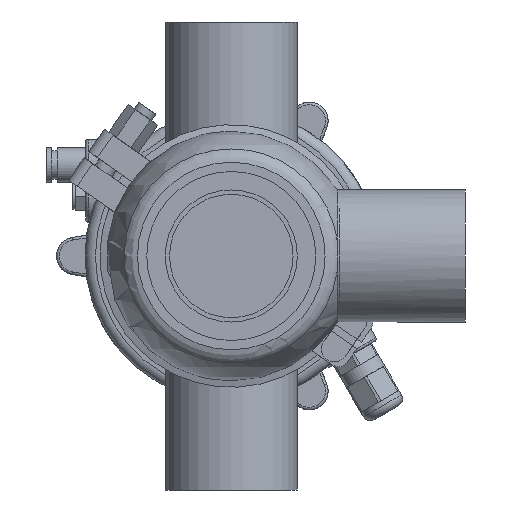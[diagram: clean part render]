
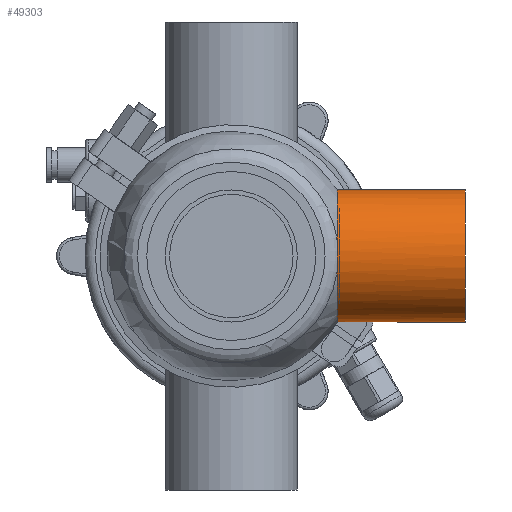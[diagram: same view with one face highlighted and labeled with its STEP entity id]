
A CAD part, front view. The second image highlights one B-rep face of the part: STEP entity #49303.
In plain terms, the highlighted cylindrical face has radius 25.4 mm (diameter 50.8 mm), a full revolution.
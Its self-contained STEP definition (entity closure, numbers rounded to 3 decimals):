
#6 = CARTESIAN_POINT ( 'NONE',  ( 90., 0., 25.4 ) ) ;
#2704 = VERTEX_POINT ( 'NONE', #41104 ) ;
#4981 = AXIS2_PLACEMENT_3D ( 'NONE', #21143, #5937, #24873 ) ;
#5277 = CARTESIAN_POINT ( 'NONE',  ( 40.729, -24.902, 5.113 ) ) ;
#5937 = DIRECTION ( 'NONE',  ( -1., 0., 0. ) ) ;
#6467 = DIRECTION ( 'NONE',  ( 1., 0., 0. ) ) ;
#7846 = DIRECTION ( 'NONE',  ( -1., 0., 0. ) ) ;
#9778 = EDGE_LOOP ( 'NONE', ( #10451, #44979 ) ) ;
#10451 = ORIENTED_EDGE ( 'NONE', *, *, #42884, .T. ) ;
#10853 = CARTESIAN_POINT ( 'NONE',  ( 40.729, -24.902, -5.113 ) ) ;
#10973 = CIRCLE ( 'NONE', #45681, 25.4 ) ;
#11286 = ORIENTED_EDGE ( 'NONE', *, *, #49764, .T. ) ;
#12159 = CARTESIAN_POINT ( 'NONE',  ( 90., 0., 0. ) ) ;
#14595 = CARTESIAN_POINT ( 'NONE',  ( 40.67, -25.4, 1.042 ) ) ;
#15179 = CARTESIAN_POINT ( 'NONE',  ( 40.682, -25.322, -2.053 ) ) ;
#15491 = CARTESIAN_POINT ( 'NONE',  ( 40.689, -25.275, -2.566 ) ) ;
#16145 = FACE_OUTER_BOUND ( 'NONE', #57023, .T. ) ;
#19874 = CARTESIAN_POINT ( 'NONE',  ( 40.672, -25.385, -1.022 ) ) ;
#20503 = CARTESIAN_POINT ( 'NONE',  ( 40.729, -24.652, -6.117 ) ) ;
#21143 = CARTESIAN_POINT ( 'NONE',  ( 0., 0., 0. ) ) ;
#24216 = CARTESIAN_POINT ( 'NONE',  ( 40.681, -25.337, 2.066 ) ) ;
#24873 = DIRECTION ( 'NONE',  ( 0., 0., 1. ) ) ;
#25387 = DIRECTION ( 'NONE',  ( 0., 0., 1. ) ) ;
#26619 = CARTESIAN_POINT ( 'NONE',  ( 40.729, 0., 0. ) ) ;
#28058 = CIRCLE ( 'NONE', #40996, 25.4 ) ;
#34201 = CARTESIAN_POINT ( 'NONE',  ( 40.711, -25.088, -4.099 ) ) ;
#39022 = VERTEX_POINT ( 'NONE', #59288 ) ;
#40996 = AXIS2_PLACEMENT_3D ( 'NONE', #26619, #6467, #25387 ) ;
#41104 = CARTESIAN_POINT ( 'NONE',  ( 40.729, -24.652, 6.117 ) ) ;
#42884 = EDGE_CURVE ( 'NONE', #39022, #2704, #28058, .T. ) ;
#44979 = ORIENTED_EDGE ( 'NONE', *, *, #47461, .T. ) ;
#45681 = AXIS2_PLACEMENT_3D ( 'NONE', #12159, #7846, #54417 ) ;
#47461 = EDGE_CURVE ( 'NONE', #2704, #39022, #57457, .T. ) ;
#48504 = FACE_OUTER_BOUND ( 'NONE', #9778, .T. ) ;
#49248 = VERTEX_POINT ( 'NONE', #6 ) ;
#49303 = ADVANCED_FACE ( 'NONE', ( #48504, #16145 ), #54044, .T. ) ;
#49764 = EDGE_CURVE ( 'NONE', #49248, #49248, #10973, .T. ) ;
#52747 = CARTESIAN_POINT ( 'NONE',  ( 40.729, -24.652, 6.117 ) ) ;
#54044 = CYLINDRICAL_SURFACE ( 'NONE', #4981, 25.4 ) ;
#54417 = DIRECTION ( 'NONE',  ( 0., 0., 1. ) ) ;
#57023 = EDGE_LOOP ( 'NONE', ( #11286 ) ) ;
#57109 = CARTESIAN_POINT ( 'NONE',  ( 40.711, -25.088, 4.101 ) ) ;
#57457 = B_SPLINE_CURVE_WITH_KNOTS ( 'NONE', 3,
 ( #52747, #5277, #57109, #24216, #14595, #57721, #19874, #15179, #15491, #34201, #10853, #20503 ),
 .UNSPECIFIED., .F., .F.,
 ( 4, 2, 2, 2, 2, 4 ),
 ( 0., 0.003, 0.006, 0.008, 0.009, 0.012 ),
 .UNSPECIFIED. ) ;
#57721 = CARTESIAN_POINT ( 'NONE',  ( 40.669, -25.4, -0.503 ) ) ;
#59288 = CARTESIAN_POINT ( 'NONE',  ( 40.729, -24.652, -6.117 ) ) ;
